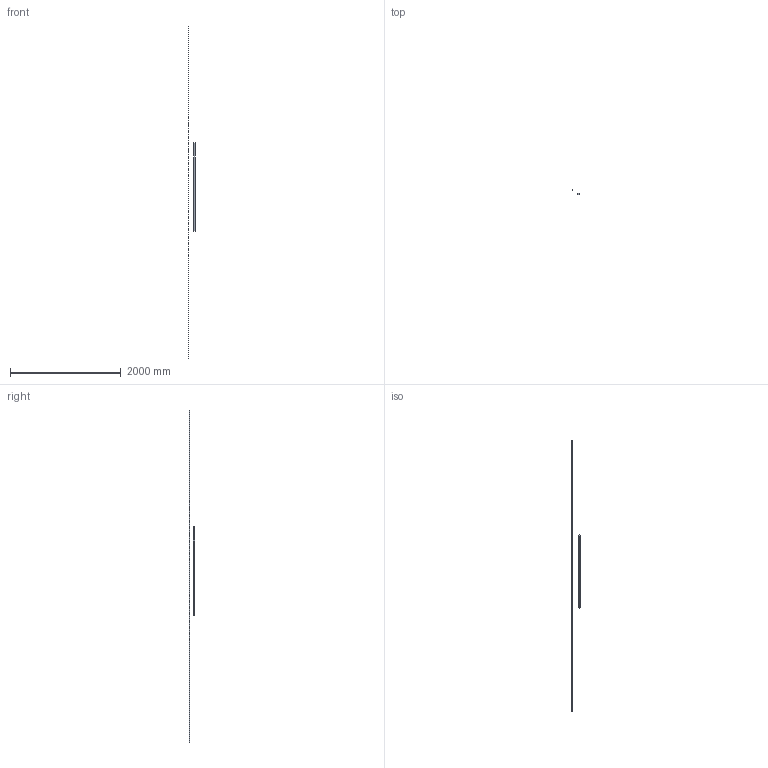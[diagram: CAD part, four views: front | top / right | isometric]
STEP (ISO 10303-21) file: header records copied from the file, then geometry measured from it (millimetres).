
FILE_DESCRIPTION (( 'STEP AP203' ), '1' );
FILE_NAME ('BG01_V0.STEP', '2018-06-04T06:43:32', ( '' ), ( '' ), 'SwSTEP 2.0', 'SolidWorks 2017', '' );
FILE_SCHEMA (( 'CONFIG_CONTROL_DESIGN' ));
Length unit declared in the file: millimetre
Products named in the file (5): BG01_V0; GASKET FIREFL; GASKET PVC
Assembly tree (2 placements, depth 2):
  BG01_V0
    GASKET FIREFL
    GASKET PVC
  GASKET FIREFL
  GASKET PVC
Bounding box: 118.43 x 99.82 x 6000 mm (x, y, z)
Volume: 1216000 mm3; surface area: 311322 mm2
Topology: 2 solids, 2 shells, 12 faces, 24 edges, 16 vertices
Faces by surface type: plane 12
Entity records: 765 total; most frequent: DIRECTION 60, CARTESIAN_POINT 58, ORIENTED_EDGE 48, PERSON_AND_ORGANIZATION 42, COORDINATED_UNIVERSAL_TIME_OFFSET 29, CALENDAR_DATE 29, LOCAL_TIME 29, DATE_AND_TIME 29
